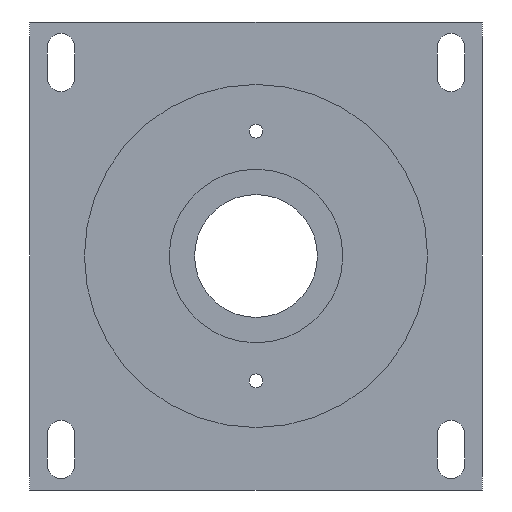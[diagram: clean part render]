
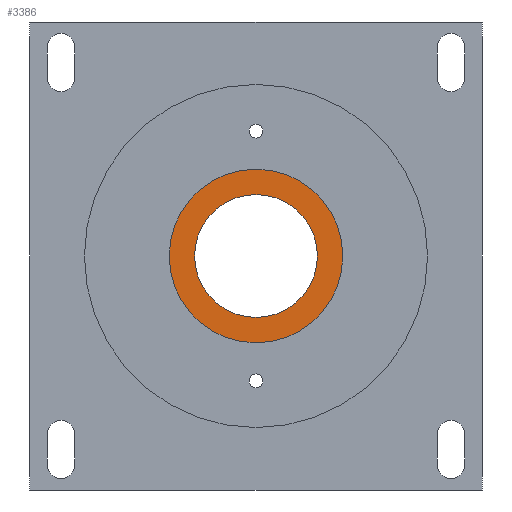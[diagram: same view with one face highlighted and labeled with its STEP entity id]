
A CAD part, front view. The second image highlights one B-rep face of the part: STEP entity #3386.
In plain terms, the highlighted planar face has unit normal (0, -1, 0).
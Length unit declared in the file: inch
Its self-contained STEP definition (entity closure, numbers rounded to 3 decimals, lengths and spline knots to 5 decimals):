
#243 = EDGE_LOOP ( 'NONE', ( #3547, #3740 ) ) ;
#273 = CARTESIAN_POINT ( 'NONE',  ( 1.09809, -0.68926, 0.3857 ) ) ;
#323 = EDGE_CURVE ( 'NONE', #1106, #1571, #1633, .T. ) ;
#591 = AXIS2_PLACEMENT_3D ( 'NONE', #4639, #4621, #4547 ) ;
#629 = CIRCLE ( 'NONE', #1163, 1.39 ) ;
#777 = EDGE_CURVE ( 'NONE', #1982, #4891, #629, .T. ) ;
#1106 = VERTEX_POINT ( 'NONE', #273 ) ;
#1122 = DIRECTION ( 'NONE',  ( 1., 0., 0. ) ) ;
#1135 = DIRECTION ( 'NONE',  ( 0., 1., 0. ) ) ;
#1163 = AXIS2_PLACEMENT_3D ( 'NONE', #3050, #3031, #3018 ) ;
#1187 = CARTESIAN_POINT ( 'NONE',  ( 0.11309, -0.68926, 0.38537 ) ) ;
#1278 = PLANE ( 'NONE',  #3495 ) ;
#1571 = VERTEX_POINT ( 'NONE', #5074 ) ;
#1633 = CIRCLE ( 'NONE', #591, 0.985 ) ;
#1982 = VERTEX_POINT ( 'NONE', #2385 ) ;
#2005 = DIRECTION ( 'NONE',  ( -1., 0., 0. ) ) ;
#2017 = DIRECTION ( 'NONE',  ( 0., -1., 0. ) ) ;
#2039 = CARTESIAN_POINT ( 'NONE',  ( 0.11309, -0.68926, 0.38537 ) ) ;
#2385 = CARTESIAN_POINT ( 'NONE',  ( 1.50309, -0.68926, 0.38583 ) ) ;
#2501 = AXIS2_PLACEMENT_3D ( 'NONE', #2842, #2825, #2815 ) ;
#2655 = FACE_BOUND ( 'NONE', #3159, .T. ) ;
#2725 = FACE_OUTER_BOUND ( 'NONE', #243, .T. ) ;
#2736 = ORIENTED_EDGE ( 'NONE', *, *, #3235, .F. ) ;
#2815 = DIRECTION ( 'NONE',  ( 1., 0., 0. ) ) ;
#2825 = DIRECTION ( 'NONE',  ( 0., 1., 0. ) ) ;
#2842 = CARTESIAN_POINT ( 'NONE',  ( 0.11309, -0.68926, 0.38537 ) ) ;
#3018 = DIRECTION ( 'NONE',  ( 1., 0., 0. ) ) ;
#3031 = DIRECTION ( 'NONE',  ( 0., 1., 0. ) ) ;
#3050 = CARTESIAN_POINT ( 'NONE',  ( 0.11309, -0.68926, 0.38537 ) ) ;
#3067 = EDGE_CURVE ( 'NONE', #4891, #1982, #3666, .T. ) ;
#3103 = CIRCLE ( 'NONE', #4143, 0.985 ) ;
#3159 = EDGE_LOOP ( 'NONE', ( #2736, #3493 ) ) ;
#3235 = EDGE_CURVE ( 'NONE', #1571, #1106, #3103, .T. ) ;
#3386 = ADVANCED_FACE ( 'NONE', ( #2655, #2725 ), #1278, .F. ) ;
#3493 = ORIENTED_EDGE ( 'NONE', *, *, #323, .F. ) ;
#3495 = AXIS2_PLACEMENT_3D ( 'NONE', #1187, #1135, #1122 ) ;
#3547 = ORIENTED_EDGE ( 'NONE', *, *, #777, .F. ) ;
#3666 = CIRCLE ( 'NONE', #2501, 1.39 ) ;
#3740 = ORIENTED_EDGE ( 'NONE', *, *, #3067, .F. ) ;
#4143 = AXIS2_PLACEMENT_3D ( 'NONE', #2039, #2017, #2005 ) ;
#4415 = CARTESIAN_POINT ( 'NONE',  ( -1.27691, -0.68926, 0.38491 ) ) ;
#4547 = DIRECTION ( 'NONE',  ( -1., 0., 0. ) ) ;
#4621 = DIRECTION ( 'NONE',  ( 0., -1., 0. ) ) ;
#4639 = CARTESIAN_POINT ( 'NONE',  ( 0.11309, -0.68926, 0.38537 ) ) ;
#4891 = VERTEX_POINT ( 'NONE', #4415 ) ;
#5074 = CARTESIAN_POINT ( 'NONE',  ( -0.87191, -0.68926, 0.38505 ) ) ;
